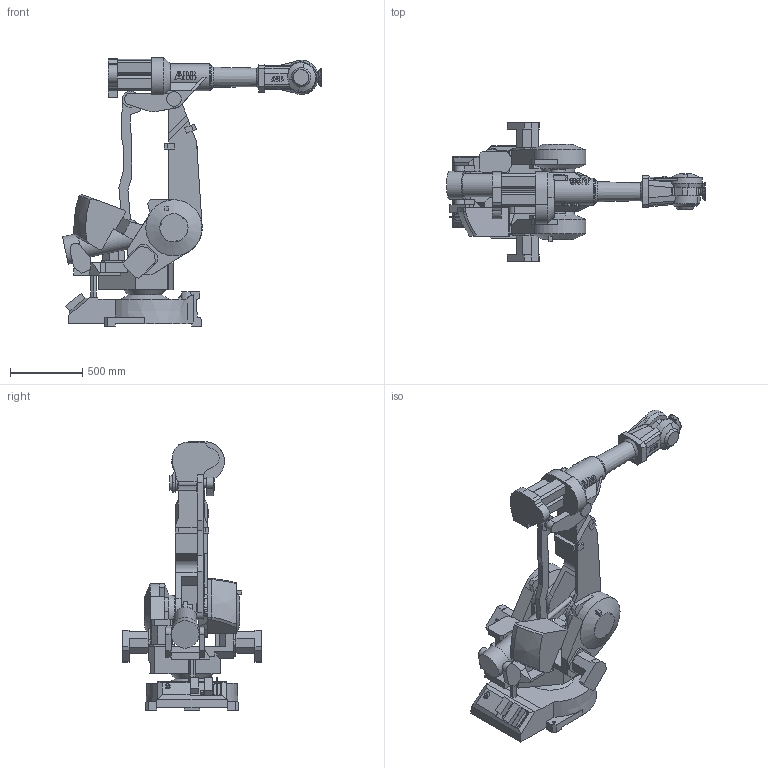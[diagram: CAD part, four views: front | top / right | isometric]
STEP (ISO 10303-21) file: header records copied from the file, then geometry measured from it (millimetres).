
FILE_DESCRIPTION(/* description */ (''),/* implementation_level */ '2;1');
FILE_NAME(/* name */ 'E:\组装完成的图纸\IRB 4400\IRB 4400-60\IRB 4400-60-1.96.stp',/* time_stamp */ '2023-11-03T21:28:03+08:00',/* author */ ('Administrator'),/* organization */ (''),/* preprocessor_version */ 'ST-DEVELOPER v16.5',/* originating_system */ 'Autodesk Inventor 2017',/* authorisation */ '');
FILE_SCHEMA (('AUTOMOTIVE_DESIGN { 1 0 10303 214 3 1 1 }'));
Length unit declared in the file: millimetre
Products named in the file (17): 部件13; IRB4400_60-195_IRC5_rev02_BAL-A_CAD; IRB4400_60-195_IRC5_rev02_BAL-B_CAD; IRB4400_60-195_IRC5_rev02_BASE_CAD; IRB4400_60-195_IRC5_rev02_LINK01_CAD; IRB4400_60-195_IRC5_rev02_LINK02_CAD; IRB4400_60-195_IRC5_rev02_LINK03_CAD; IRB4400_60-195_IRC5_rev02_LINK04_CAD; IRB4400_60-195_IRC5_rev02_LINK05_CAD; IRB4400_60-195_IRC5_rev02_LINK06_CAD; IRB4400_60-195_IRC5_rev02_LINKARM_CAD; IRB4400_60-195_IRC5_rev02_LINKROD_CAD; IRB4400_60-195_IRC5_rev02_LOGO01_CAD; IRB4400_60-195_IRC5_rev02_LOGO02_CAD; IRB4400_60-195_IRC5_rev02_LOGO03_CAD; IRB4400_60-195_IRC5_rev02_LOGO04_CAD; IRB4400_60-195_IRC5_rev02_LOGO05_CAD
Assembly tree (16 placements, depth 2):
  部件13
    IRB4400_60-195_IRC5_rev02_BAL-A_CAD
    IRB4400_60-195_IRC5_rev02_BAL-B_CAD
    IRB4400_60-195_IRC5_rev02_BASE_CAD
    IRB4400_60-195_IRC5_rev02_LINK01_CAD
    IRB4400_60-195_IRC5_rev02_LINK02_CAD
    IRB4400_60-195_IRC5_rev02_LINK03_CAD
    IRB4400_60-195_IRC5_rev02_LINK04_CAD
    IRB4400_60-195_IRC5_rev02_LINK05_CAD
    IRB4400_60-195_IRC5_rev02_LINK06_CAD
    IRB4400_60-195_IRC5_rev02_LINKARM_CAD
    IRB4400_60-195_IRC5_rev02_LINKROD_CAD
    IRB4400_60-195_IRC5_rev02_LOGO01_CAD
    IRB4400_60-195_IRC5_rev02_LOGO02_CAD
    IRB4400_60-195_IRC5_rev02_LOGO03_CAD
    IRB4400_60-195_IRC5_rev02_LOGO04_CAD
    IRB4400_60-195_IRC5_rev02_LOGO05_CAD
Bounding box: 1789.8 x 958.6 x 1855.1 mm (x, y, z)
Volume: 298600610.4 mm3; surface area: 8411276 mm2
Topology: 16 solids, 16 shells, 1284 faces, 3484 edges, 2284 vertices
Faces by surface type: plane 1096, cylinder 116, bspline 37, cone 35
Full cylindrical faces by diameter (mm): 5 x2, 7 x11, 8 x1, 9 x6, 20 x1, 22 x4, 23 x1, 25 x2, 26 x1, 30 x6, 35 x5, 38 x1, 40 x4, 40.2 x2, 50 x2, 60 x2, 63 x1, 65 x1, 80 x2, 100 x8, 112 x2, 125 x1, 150 x2, 155 x2, 160 x1, 182 x1, 185.2 x1, 190 x1, 193.469 x1
Entity records: 45063 total; most frequent: CARTESIAN_POINT 12770, ORIENTED_EDGE 6670, DIRECTION 6099, EDGE_CURVE 3335, LINE 2859, VECTOR 2859, VERTEX_POINT 2244, AXIS2_PLACEMENT_3D 1620
